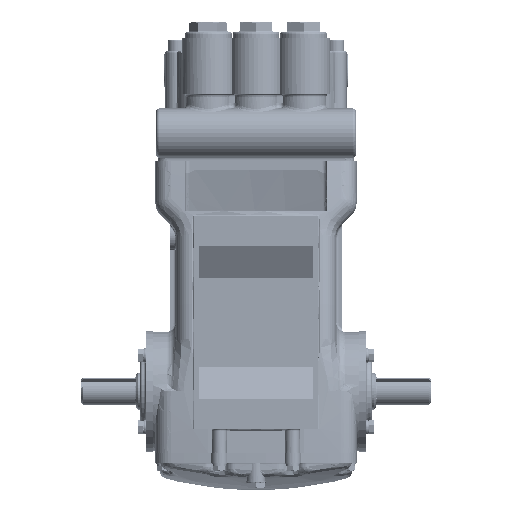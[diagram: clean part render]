
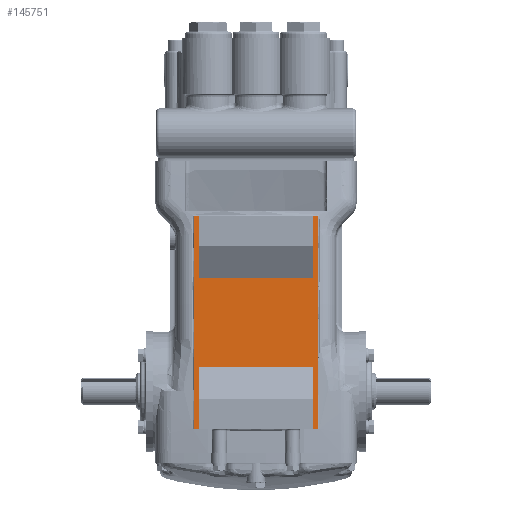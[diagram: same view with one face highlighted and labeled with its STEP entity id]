
A CAD part, front view. The second image highlights one B-rep face of the part: STEP entity #145751.
In plain terms, the highlighted planar face has unit normal (0, -1, 0).
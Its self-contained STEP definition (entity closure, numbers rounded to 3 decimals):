
#40443 = FACE_OUTER_BOUND ( 'NONE', #111362, .T. ) ;
#40463 = AXIS2_PLACEMENT_3D ( 'NONE', #53419, #53420, #53421 ) ;
#53406 = PLANE ( 'NONE',  #40463 ) ;
#53419 = CARTESIAN_POINT ( 'NONE',  ( -84.501, 0.234, -61. ) ) ;
#53420 = DIRECTION ( 'NONE',  ( 0., 1., 0. ) ) ;
#53421 = DIRECTION ( 'NONE',  ( 0., 0., -1. ) ) ;
#84132 = CARTESIAN_POINT ( 'NONE',  ( -79.501, 0.234, -293. ) ) ;
#84137 = CARTESIAN_POINT ( 'NONE',  ( 45.499, 0.234, -293. ) ) ;
#84138 = CARTESIAN_POINT ( 'NONE',  ( 50.499, 0.234, -293. ) ) ;
#84139 = CARTESIAN_POINT ( 'NONE',  ( -84.501, 0.234, -293. ) ) ;
#85968 = CARTESIAN_POINT ( 'NONE',  ( 50.499, 0.234, -61. ) ) ;
#85972 = CARTESIAN_POINT ( 'NONE',  ( -84.501, 0.234, -61. ) ) ;
#85975 = CARTESIAN_POINT ( 'NONE',  ( -79.501, 0.234, -61. ) ) ;
#86017 = CARTESIAN_POINT ( 'NONE',  ( 45.499, 0.234, -61. ) ) ;
#86752 = CARTESIAN_POINT ( 'NONE',  ( -79.501, 0.234, -226. ) ) ;
#86755 = CARTESIAN_POINT ( 'NONE',  ( 45.499, 0.234, -226. ) ) ;
#86758 = CARTESIAN_POINT ( 'NONE',  ( 45.499, 0.234, -128. ) ) ;
#86764 = CARTESIAN_POINT ( 'NONE',  ( -79.501, 0.234, -128. ) ) ;
#103969 = ORIENTED_EDGE ( 'NONE', *, *, #164940, .T. ) ;
#103971 = ORIENTED_EDGE ( 'NONE', *, *, #164933, .F. ) ;
#103973 = ORIENTED_EDGE ( 'NONE', *, *, #147375, .T. ) ;
#103975 = ORIENTED_EDGE ( 'NONE', *, *, #164937, .F. ) ;
#103977 = ORIENTED_EDGE ( 'NONE', *, *, #164946, .T. ) ;
#103979 = ORIENTED_EDGE ( 'NONE', *, *, #164956, .T. ) ;
#103981 = ORIENTED_EDGE ( 'NONE', *, *, #164965, .F. ) ;
#103983 = ORIENTED_EDGE ( 'NONE', *, *, #147363, .F. ) ;
#103985 = ORIENTED_EDGE ( 'NONE', *, *, #164966, .F. ) ;
#103987 = ORIENTED_EDGE ( 'NONE', *, *, #164942, .T. ) ;
#103989 = ORIENTED_EDGE ( 'NONE', *, *, #164948, .T. ) ;
#103991 = ORIENTED_EDGE ( 'NONE', *, *, #164944, .T. ) ;
#111362 = EDGE_LOOP ( 'NONE', ( #103971, #103973, #103975, #103969, #103977, #103979, #103981, #103983, #103985, #103989, #103991, #103987 ) ) ;
#145751 = ADVANCED_FACE ( 'NONE', ( #40443 ), #53406, .F. ) ;
#147363 = EDGE_CURVE ( 'NONE', #260777, #260765, #177244, .T. ) ;
#147375 = EDGE_CURVE ( 'NONE', #260783, #260796, #189152, .T. ) ;
#164933 = EDGE_CURVE ( 'NONE', #260783, #247737, #319563, .T. ) ;
#164937 = EDGE_CURVE ( 'NONE', #247723, #260796, #319582, .T. ) ;
#164940 = EDGE_CURVE ( 'NONE', #247723, #247722, #319608, .T. ) ;
#164942 = EDGE_CURVE ( 'NONE', #247721, #247737, #319622, .T. ) ;
#164944 = EDGE_CURVE ( 'NONE', #247605, #247721, #319632, .T. ) ;
#164946 = EDGE_CURVE ( 'NONE', #247722, #247606, #319646, .T. ) ;
#164948 = EDGE_CURVE ( 'NONE', #247604, #247605, #319667, .T. ) ;
#164956 = EDGE_CURVE ( 'NONE', #247606, #247599, #319719, .T. ) ;
#164965 = EDGE_CURVE ( 'NONE', #260765, #247599, #319785, .T. ) ;
#164966 = EDGE_CURVE ( 'NONE', #247604, #260777, #319794, .T. ) ;
#177244 = LINE ( 'NONE', #177245, #181534 ) ;
#177245 = CARTESIAN_POINT ( 'NONE',  ( 90.499, 0.234, -226. ) ) ;
#177246 = DIRECTION ( 'NONE',  ( -1., 0., 0. ) ) ;
#181534 = VECTOR ( 'NONE', #177246, 1000. ) ;
#181592 = VECTOR ( 'NONE', #189156, 1000. ) ;
#189152 = LINE ( 'NONE', #189154, #181592 ) ;
#189154 = CARTESIAN_POINT ( 'NONE',  ( 90.499, 0.234, -128. ) ) ;
#189156 = DIRECTION ( 'NONE',  ( -1., 0., 0. ) ) ;
#247599 = VERTEX_POINT ( 'NONE', #84132 ) ;
#247604 = VERTEX_POINT ( 'NONE', #84137 ) ;
#247605 = VERTEX_POINT ( 'NONE', #84138 ) ;
#247606 = VERTEX_POINT ( 'NONE', #84139 ) ;
#247721 = VERTEX_POINT ( 'NONE', #85968 ) ;
#247722 = VERTEX_POINT ( 'NONE', #85972 ) ;
#247723 = VERTEX_POINT ( 'NONE', #85975 ) ;
#247737 = VERTEX_POINT ( 'NONE', #86017 ) ;
#260765 = VERTEX_POINT ( 'NONE', #86752 ) ;
#260777 = VERTEX_POINT ( 'NONE', #86755 ) ;
#260783 = VERTEX_POINT ( 'NONE', #86758 ) ;
#260796 = VERTEX_POINT ( 'NONE', #86764 ) ;
#312651 = VECTOR ( 'NONE', #319566, 1000. ) ;
#312673 = VECTOR ( 'NONE', #319587, 1000. ) ;
#312687 = VECTOR ( 'NONE', #319612, 1000. ) ;
#312698 = VECTOR ( 'NONE', #319626, 1000. ) ;
#312714 = VECTOR ( 'NONE', #319637, 1000. ) ;
#312726 = VECTOR ( 'NONE', #319650, 1000. ) ;
#312732 = VECTOR ( 'NONE', #319671, 1000. ) ;
#312783 = VECTOR ( 'NONE', #319723, 1000. ) ;
#312821 = VECTOR ( 'NONE', #319791, 1000. ) ;
#312826 = VECTOR ( 'NONE', #319800, 1000. ) ;
#319563 = LINE ( 'NONE', #319565, #312651 ) ;
#319565 = CARTESIAN_POINT ( 'NONE',  ( 45.499, 0.234, -293. ) ) ;
#319566 = DIRECTION ( 'NONE',  ( 0., 0., 1. ) ) ;
#319582 = LINE ( 'NONE', #319584, #312673 ) ;
#319584 = CARTESIAN_POINT ( 'NONE',  ( -79.501, 0.234, -61. ) ) ;
#319587 = DIRECTION ( 'NONE',  ( 0., 0., -1. ) ) ;
#319608 = LINE ( 'NONE', #319610, #312687 ) ;
#319610 = CARTESIAN_POINT ( 'NONE',  ( -84.501, 0.234, -61. ) ) ;
#319612 = DIRECTION ( 'NONE',  ( -1., 0., 0. ) ) ;
#319622 = LINE ( 'NONE', #319624, #312698 ) ;
#319624 = CARTESIAN_POINT ( 'NONE',  ( -84.501, 0.234, -61. ) ) ;
#319626 = DIRECTION ( 'NONE',  ( -1., 0., 0. ) ) ;
#319632 = LINE ( 'NONE', #319634, #312714 ) ;
#319634 = CARTESIAN_POINT ( 'NONE',  ( 50.499, 0.234, -61. ) ) ;
#319637 = DIRECTION ( 'NONE',  ( 0., 0., 1. ) ) ;
#319646 = LINE ( 'NONE', #319648, #312726 ) ;
#319648 = CARTESIAN_POINT ( 'NONE',  ( -84.501, 0.234, -293. ) ) ;
#319650 = DIRECTION ( 'NONE',  ( 0., 0., -1. ) ) ;
#319667 = LINE ( 'NONE', #319669, #312732 ) ;
#319669 = CARTESIAN_POINT ( 'NONE',  ( 50.499, 0.234, -293. ) ) ;
#319671 = DIRECTION ( 'NONE',  ( 1., 0., 0. ) ) ;
#319719 = LINE ( 'NONE', #319721, #312783 ) ;
#319721 = CARTESIAN_POINT ( 'NONE',  ( 50.499, 0.234, -293. ) ) ;
#319723 = DIRECTION ( 'NONE',  ( 1., 0., 0. ) ) ;
#319785 = LINE ( 'NONE', #319788, #312821 ) ;
#319788 = CARTESIAN_POINT ( 'NONE',  ( -79.501, 0.234, -61. ) ) ;
#319791 = DIRECTION ( 'NONE',  ( 0., 0., -1. ) ) ;
#319794 = LINE ( 'NONE', #319797, #312826 ) ;
#319797 = CARTESIAN_POINT ( 'NONE',  ( 45.499, 0.234, -293. ) ) ;
#319800 = DIRECTION ( 'NONE',  ( 0., 0., 1. ) ) ;
